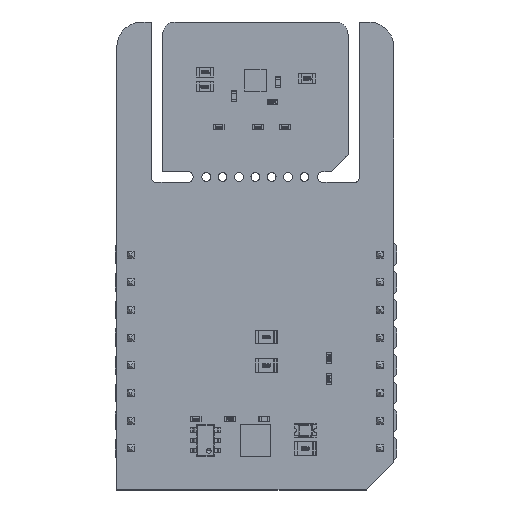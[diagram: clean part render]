
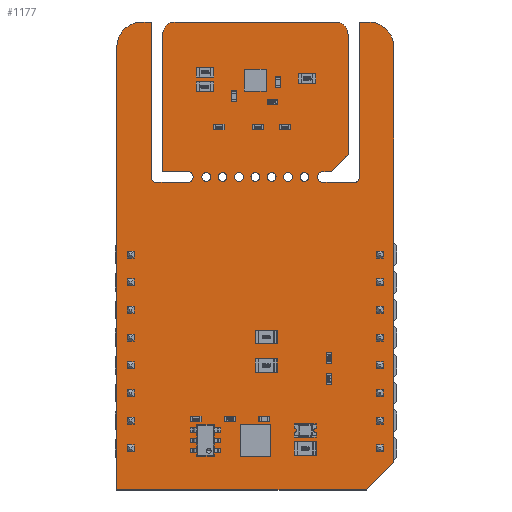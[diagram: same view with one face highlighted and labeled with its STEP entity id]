
A CAD part, top view. The second image highlights one B-rep face of the part: STEP entity #1177.
In plain terms, the highlighted planar face has unit normal (0, 0, 1).
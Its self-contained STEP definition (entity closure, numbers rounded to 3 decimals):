
#140 = VERTEX_POINT('',#141);
#141 = CARTESIAN_POINT('',(1.905,24.8,1.59));
#147 = EDGE_CURVE('',#140,#148,#150,.T.);
#148 = VERTEX_POINT('',#149);
#149 = CARTESIAN_POINT('',(2.305,24.4,1.59));
#150 = CIRCLE('',#151,0.399);
#151 = AXIS2_PLACEMENT_3D('',#152,#153,#154);
#152 = CARTESIAN_POINT('',(2.304,24.799,1.59));
#153 = DIRECTION('',(0.,0.,1.));
#154 = DIRECTION('',(-1.,0.001,0.));
#180 = EDGE_CURVE('',#148,#181,#183,.T.);
#181 = VERTEX_POINT('',#182);
#182 = CARTESIAN_POINT('',(5.23,24.4,1.59));
#183 = LINE('',#184,#185);
#184 = CARTESIAN_POINT('',(2.305,24.4,1.59));
#185 = VECTOR('',#186,1.);
#186 = DIRECTION('',(1.,0.,0.));
#211 = EDGE_CURVE('',#181,#212,#214,.T.);
#212 = VERTEX_POINT('',#213);
#213 = CARTESIAN_POINT('',(5.23,25.4,1.59));
#214 = CIRCLE('',#215,0.5);
#215 = AXIS2_PLACEMENT_3D('',#216,#217,#218);
#216 = CARTESIAN_POINT('',(5.23,24.9,1.59));
#217 = DIRECTION('',(0.,0.,1.));
#218 = DIRECTION('',(-0.,-1.,0.));
#244 = EDGE_CURVE('',#212,#245,#247,.T.);
#245 = VERTEX_POINT('',#246);
#246 = CARTESIAN_POINT('',(2.921,25.4,1.59));
#247 = LINE('',#248,#249);
#248 = CARTESIAN_POINT('',(5.23,25.4,1.59));
#249 = VECTOR('',#250,1.);
#250 = DIRECTION('',(-1.,0.,0.));
#275 = EDGE_CURVE('',#245,#276,#278,.T.);
#276 = VERTEX_POINT('',#277);
#277 = CARTESIAN_POINT('',(2.921,37.973,1.59));
#278 = LINE('',#279,#280);
#279 = CARTESIAN_POINT('',(2.921,25.4,1.59));
#280 = VECTOR('',#281,1.);
#281 = DIRECTION('',(0.,1.,0.));
#306 = EDGE_CURVE('',#276,#307,#309,.T.);
#307 = VERTEX_POINT('',#308);
#308 = CARTESIAN_POINT('',(4.064,39.116,1.59));
#309 = CIRCLE('',#310,1.144);
#310 = AXIS2_PLACEMENT_3D('',#311,#312,#313);
#311 = CARTESIAN_POINT('',(4.065,37.972,1.59));
#312 = DIRECTION('',(0.,0.,-1.));
#313 = DIRECTION('',(-1.,0.001,0.));
#339 = EDGE_CURVE('',#307,#340,#342,.T.);
#340 = VERTEX_POINT('',#341);
#341 = CARTESIAN_POINT('',(18.796,39.116,1.59));
#342 = LINE('',#343,#344);
#343 = CARTESIAN_POINT('',(4.064,39.116,1.59));
#344 = VECTOR('',#345,1.);
#345 = DIRECTION('',(1.,0.,0.));
#370 = EDGE_CURVE('',#340,#371,#373,.T.);
#371 = VERTEX_POINT('',#372);
#372 = CARTESIAN_POINT('',(19.939,37.973,1.59));
#373 = CIRCLE('',#374,1.144);
#374 = AXIS2_PLACEMENT_3D('',#375,#376,#377);
#375 = CARTESIAN_POINT('',(18.795,37.972,1.59));
#376 = DIRECTION('',(0.,0.,-1.));
#377 = DIRECTION('',(0.001,1.,0.));
#403 = EDGE_CURVE('',#371,#404,#406,.T.);
#404 = VERTEX_POINT('',#405);
#405 = CARTESIAN_POINT('',(19.939,26.924,1.59));
#406 = LINE('',#407,#408);
#407 = CARTESIAN_POINT('',(19.939,37.973,1.59));
#408 = VECTOR('',#409,1.);
#409 = DIRECTION('',(0.,-1.,0.));
#434 = EDGE_CURVE('',#404,#435,#437,.T.);
#435 = VERTEX_POINT('',#436);
#436 = CARTESIAN_POINT('',(18.415,25.4,1.59));
#437 = LINE('',#438,#439);
#438 = CARTESIAN_POINT('',(19.939,26.924,1.59));
#439 = VECTOR('',#440,1.);
#440 = DIRECTION('',(-0.707,-0.707,0.));
#465 = EDGE_CURVE('',#435,#466,#468,.T.);
#466 = VERTEX_POINT('',#467);
#467 = CARTESIAN_POINT('',(17.63,25.4,1.59));
#468 = LINE('',#469,#470);
#469 = CARTESIAN_POINT('',(18.415,25.4,1.59));
#470 = VECTOR('',#471,1.);
#471 = DIRECTION('',(-1.,0.,0.));
#496 = EDGE_CURVE('',#466,#497,#499,.T.);
#497 = VERTEX_POINT('',#498);
#498 = CARTESIAN_POINT('',(17.63,24.4,1.59));
#499 = CIRCLE('',#500,0.5);
#500 = AXIS2_PLACEMENT_3D('',#501,#502,#503);
#501 = CARTESIAN_POINT('',(17.63,24.9,1.59));
#502 = DIRECTION('',(0.,-0.,1.));
#503 = DIRECTION('',(0.,1.,0.));
#529 = EDGE_CURVE('',#497,#530,#532,.T.);
#530 = VERTEX_POINT('',#531);
#531 = CARTESIAN_POINT('',(20.555,24.4,1.59));
#532 = LINE('',#533,#534);
#533 = CARTESIAN_POINT('',(17.63,24.4,1.59));
#534 = VECTOR('',#535,1.);
#535 = DIRECTION('',(1.,0.,0.));
#560 = EDGE_CURVE('',#530,#561,#563,.T.);
#561 = VERTEX_POINT('',#562);
#562 = CARTESIAN_POINT('',(20.955,24.8,1.59));
#563 = CIRCLE('',#564,0.399);
#564 = AXIS2_PLACEMENT_3D('',#565,#566,#567);
#565 = CARTESIAN_POINT('',(20.556,24.799,1.59));
#566 = DIRECTION('',(0.,0.,1.));
#567 = DIRECTION('',(-0.001,-1.,0.));
#593 = EDGE_CURVE('',#561,#594,#596,.T.);
#594 = VERTEX_POINT('',#595);
#595 = CARTESIAN_POINT('',(20.955,39.116,1.59));
#596 = LINE('',#597,#598);
#597 = CARTESIAN_POINT('',(20.955,24.8,1.59));
#598 = VECTOR('',#599,1.);
#599 = DIRECTION('',(0.,1.,0.));
#624 = EDGE_CURVE('',#594,#625,#627,.T.);
#625 = VERTEX_POINT('',#626);
#626 = CARTESIAN_POINT('',(21.844,39.116,1.59));
#627 = LINE('',#628,#629);
#628 = CARTESIAN_POINT('',(20.955,39.116,1.59));
#629 = VECTOR('',#630,1.);
#630 = DIRECTION('',(1.,0.,0.));
#655 = EDGE_CURVE('',#625,#656,#658,.T.);
#656 = VERTEX_POINT('',#657);
#657 = CARTESIAN_POINT('',(24.13,36.83,1.59));
#658 = CIRCLE('',#659,2.288);
#659 = AXIS2_PLACEMENT_3D('',#660,#661,#662);
#660 = CARTESIAN_POINT('',(21.842,36.828,1.59));
#661 = DIRECTION('',(0.,0.,-1.));
#662 = DIRECTION('',(0.001,1.,0.));
#688 = EDGE_CURVE('',#656,#689,#691,.T.);
#689 = VERTEX_POINT('',#690);
#690 = CARTESIAN_POINT('',(24.13,-1.27,1.59));
#691 = LINE('',#692,#693);
#692 = CARTESIAN_POINT('',(24.13,36.83,1.59));
#693 = VECTOR('',#694,1.);
#694 = DIRECTION('',(0.,-1.,0.));
#719 = EDGE_CURVE('',#689,#720,#722,.T.);
#720 = VERTEX_POINT('',#721);
#721 = CARTESIAN_POINT('',(21.59,-3.81,1.59));
#722 = LINE('',#723,#724);
#723 = CARTESIAN_POINT('',(24.13,-1.27,1.59));
#724 = VECTOR('',#725,1.);
#725 = DIRECTION('',(-0.707,-0.707,0.));
#750 = EDGE_CURVE('',#720,#751,#753,.T.);
#751 = VERTEX_POINT('',#752);
#752 = CARTESIAN_POINT('',(-1.27,-3.81,1.59));
#753 = LINE('',#754,#755);
#754 = CARTESIAN_POINT('',(21.59,-3.81,1.59));
#755 = VECTOR('',#756,1.);
#756 = DIRECTION('',(-1.,0.,0.));
#781 = EDGE_CURVE('',#751,#782,#784,.T.);
#782 = VERTEX_POINT('',#783);
#783 = CARTESIAN_POINT('',(-1.27,36.83,1.59));
#784 = LINE('',#785,#786);
#785 = CARTESIAN_POINT('',(-1.27,-3.81,1.59));
#786 = VECTOR('',#787,1.);
#787 = DIRECTION('',(0.,1.,0.));
#812 = EDGE_CURVE('',#782,#813,#815,.T.);
#813 = VERTEX_POINT('',#814);
#814 = CARTESIAN_POINT('',(1.016,39.116,1.59));
#815 = CIRCLE('',#816,2.288);
#816 = AXIS2_PLACEMENT_3D('',#817,#818,#819);
#817 = CARTESIAN_POINT('',(1.018,36.828,1.59));
#818 = DIRECTION('',(0.,0.,-1.));
#819 = DIRECTION('',(-1.,0.001,0.));
#845 = EDGE_CURVE('',#813,#846,#848,.T.);
#846 = VERTEX_POINT('',#847);
#847 = CARTESIAN_POINT('',(1.905,39.116,1.59));
#848 = LINE('',#849,#850);
#849 = CARTESIAN_POINT('',(1.016,39.116,1.59));
#850 = VECTOR('',#851,1.);
#851 = DIRECTION('',(1.,0.,0.));
#876 = EDGE_CURVE('',#846,#140,#877,.T.);
#877 = LINE('',#878,#879);
#878 = CARTESIAN_POINT('',(1.905,39.116,1.59));
#879 = VECTOR('',#880,1.);
#880 = DIRECTION('',(0.,-1.,0.));
#900 = VERTEX_POINT('',#901);
#901 = CARTESIAN_POINT('',(10.33,24.9,1.59));
#907 = EDGE_CURVE('',#900,#900,#908,.T.);
#908 = CIRCLE('',#909,0.4);
#909 = AXIS2_PLACEMENT_3D('',#910,#911,#912);
#910 = CARTESIAN_POINT('',(9.93,24.9,1.59));
#911 = DIRECTION('',(0.,0.,1.));
#912 = DIRECTION('',(1.,0.,-0.));
#933 = VERTEX_POINT('',#934);
#934 = CARTESIAN_POINT('',(7.33,24.9,1.59));
#940 = EDGE_CURVE('',#933,#933,#941,.T.);
#941 = CIRCLE('',#942,0.4);
#942 = AXIS2_PLACEMENT_3D('',#943,#944,#945);
#943 = CARTESIAN_POINT('',(6.93,24.9,1.59));
#944 = DIRECTION('',(0.,0.,1.));
#945 = DIRECTION('',(1.,0.,-0.));
#966 = VERTEX_POINT('',#967);
#967 = CARTESIAN_POINT('',(8.83,24.9,1.59));
#973 = EDGE_CURVE('',#966,#966,#974,.T.);
#974 = CIRCLE('',#975,0.4);
#975 = AXIS2_PLACEMENT_3D('',#976,#977,#978);
#976 = CARTESIAN_POINT('',(8.43,24.9,1.59));
#977 = DIRECTION('',(0.,0.,1.));
#978 = DIRECTION('',(1.,0.,-0.));
#999 = VERTEX_POINT('',#1000);
#1000 = CARTESIAN_POINT('',(14.83,24.9,1.59));
#1006 = EDGE_CURVE('',#999,#999,#1007,.T.);
#1007 = CIRCLE('',#1008,0.4);
#1008 = AXIS2_PLACEMENT_3D('',#1009,#1010,#1011);
#1009 = CARTESIAN_POINT('',(14.43,24.9,1.59));
#1010 = DIRECTION('',(0.,0.,1.));
#1011 = DIRECTION('',(1.,0.,-0.));
#1032 = VERTEX_POINT('',#1033);
#1033 = CARTESIAN_POINT('',(16.33,24.9,1.59));
#1039 = EDGE_CURVE('',#1032,#1032,#1040,.T.);
#1040 = CIRCLE('',#1041,0.4);
#1041 = AXIS2_PLACEMENT_3D('',#1042,#1043,#1044);
#1042 = CARTESIAN_POINT('',(15.93,24.9,1.59));
#1043 = DIRECTION('',(0.,0.,1.));
#1044 = DIRECTION('',(1.,0.,-0.));
#1065 = VERTEX_POINT('',#1066);
#1066 = CARTESIAN_POINT('',(11.83,24.9,1.59));
#1072 = EDGE_CURVE('',#1065,#1065,#1073,.T.);
#1073 = CIRCLE('',#1074,0.4);
#1074 = AXIS2_PLACEMENT_3D('',#1075,#1076,#1077);
#1075 = CARTESIAN_POINT('',(11.43,24.9,1.59));
#1076 = DIRECTION('',(0.,0.,1.));
#1077 = DIRECTION('',(1.,0.,-0.));
#1098 = VERTEX_POINT('',#1099);
#1099 = CARTESIAN_POINT('',(13.33,24.9,1.59));
#1105 = EDGE_CURVE('',#1098,#1098,#1106,.T.);
#1106 = CIRCLE('',#1107,0.4);
#1107 = AXIS2_PLACEMENT_3D('',#1108,#1109,#1110);
#1108 = CARTESIAN_POINT('',(12.93,24.9,1.59));
#1109 = DIRECTION('',(0.,0.,1.));
#1110 = DIRECTION('',(1.,0.,-0.));
#1177 = ADVANCED_FACE('',(#1178,#1204,#1207,#1210,#1213,#1216,#1219,
    #1222),#1225,.F.);
#1178 = FACE_BOUND('',#1179,.F.);
#1179 = EDGE_LOOP('',(#1180,#1181,#1182,#1183,#1184,#1185,#1186,#1187,
    #1188,#1189,#1190,#1191,#1192,#1193,#1194,#1195,#1196,#1197,#1198,
    #1199,#1200,#1201,#1202,#1203));
#1180 = ORIENTED_EDGE('',*,*,#147,.T.);
#1181 = ORIENTED_EDGE('',*,*,#180,.T.);
#1182 = ORIENTED_EDGE('',*,*,#211,.T.);
#1183 = ORIENTED_EDGE('',*,*,#244,.T.);
#1184 = ORIENTED_EDGE('',*,*,#275,.T.);
#1185 = ORIENTED_EDGE('',*,*,#306,.T.);
#1186 = ORIENTED_EDGE('',*,*,#339,.T.);
#1187 = ORIENTED_EDGE('',*,*,#370,.T.);
#1188 = ORIENTED_EDGE('',*,*,#403,.T.);
#1189 = ORIENTED_EDGE('',*,*,#434,.T.);
#1190 = ORIENTED_EDGE('',*,*,#465,.T.);
#1191 = ORIENTED_EDGE('',*,*,#496,.T.);
#1192 = ORIENTED_EDGE('',*,*,#529,.T.);
#1193 = ORIENTED_EDGE('',*,*,#560,.T.);
#1194 = ORIENTED_EDGE('',*,*,#593,.T.);
#1195 = ORIENTED_EDGE('',*,*,#624,.T.);
#1196 = ORIENTED_EDGE('',*,*,#655,.T.);
#1197 = ORIENTED_EDGE('',*,*,#688,.T.);
#1198 = ORIENTED_EDGE('',*,*,#719,.T.);
#1199 = ORIENTED_EDGE('',*,*,#750,.T.);
#1200 = ORIENTED_EDGE('',*,*,#781,.T.);
#1201 = ORIENTED_EDGE('',*,*,#812,.T.);
#1202 = ORIENTED_EDGE('',*,*,#845,.T.);
#1203 = ORIENTED_EDGE('',*,*,#876,.T.);
#1204 = FACE_BOUND('',#1205,.F.);
#1205 = EDGE_LOOP('',(#1206));
#1206 = ORIENTED_EDGE('',*,*,#907,.T.);
#1207 = FACE_BOUND('',#1208,.F.);
#1208 = EDGE_LOOP('',(#1209));
#1209 = ORIENTED_EDGE('',*,*,#940,.T.);
#1210 = FACE_BOUND('',#1211,.F.);
#1211 = EDGE_LOOP('',(#1212));
#1212 = ORIENTED_EDGE('',*,*,#973,.T.);
#1213 = FACE_BOUND('',#1214,.F.);
#1214 = EDGE_LOOP('',(#1215));
#1215 = ORIENTED_EDGE('',*,*,#1006,.T.);
#1216 = FACE_BOUND('',#1217,.F.);
#1217 = EDGE_LOOP('',(#1218));
#1218 = ORIENTED_EDGE('',*,*,#1039,.T.);
#1219 = FACE_BOUND('',#1220,.F.);
#1220 = EDGE_LOOP('',(#1221));
#1221 = ORIENTED_EDGE('',*,*,#1072,.T.);
#1222 = FACE_BOUND('',#1223,.F.);
#1223 = EDGE_LOOP('',(#1224));
#1224 = ORIENTED_EDGE('',*,*,#1105,.T.);
#1225 = PLANE('',#1226);
#1226 = AXIS2_PLACEMENT_3D('',#1227,#1228,#1229);
#1227 = CARTESIAN_POINT('',(11.288,21.814,1.59));
#1228 = DIRECTION('',(-0.,-0.,-1.));
#1229 = DIRECTION('',(-1.,0.,0.));
